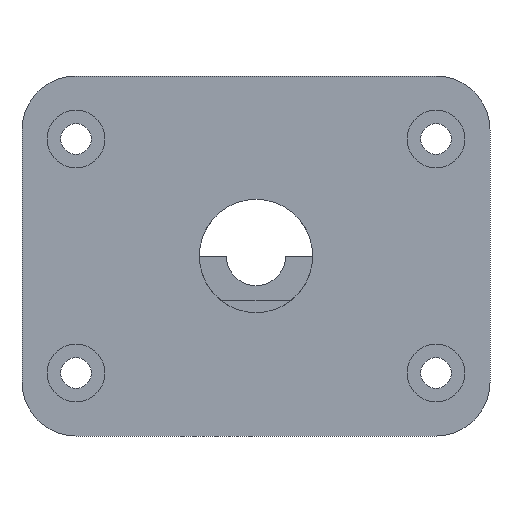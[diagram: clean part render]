
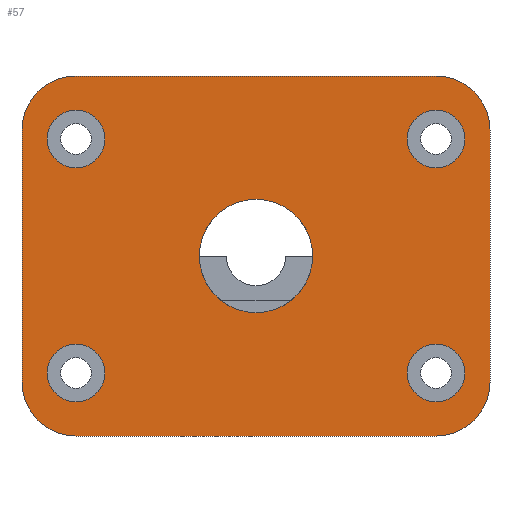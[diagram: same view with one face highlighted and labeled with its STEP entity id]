
A CAD part, front view. The second image highlights one B-rep face of the part: STEP entity #57.
In plain terms, the highlighted planar face has unit normal (0, -1, 0).
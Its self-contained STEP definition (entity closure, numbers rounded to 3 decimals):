
#21 = EDGE_CURVE('',#22,#24,#26,.T.);
#22 = VERTEX_POINT('',#23);
#23 = CARTESIAN_POINT('',(-26.,-27.5,6.));
#24 = VERTEX_POINT('',#25);
#25 = CARTESIAN_POINT('',(-26.,-27.5,34.));
#26 = LINE('',#27,#28);
#27 = CARTESIAN_POINT('',(-26.,-27.5,0.));
#28 = VECTOR('',#29,1.);
#29 = DIRECTION('',(0.,0.,1.));
#57 = ADVANCED_FACE('',(#58,#119,#130,#141,#152,#163),#174,.F.);
#58 = FACE_BOUND('',#59,.F.);
#59 = EDGE_LOOP('',(#60,#70,#77,#78,#87,#95,#104,#112));
#60 = ORIENTED_EDGE('',*,*,#61,.F.);
#61 = EDGE_CURVE('',#62,#64,#66,.T.);
#62 = VERTEX_POINT('',#63);
#63 = CARTESIAN_POINT('',(-20.,-27.5,0.));
#64 = VERTEX_POINT('',#65);
#65 = CARTESIAN_POINT('',(20.,-27.5,0.));
#66 = LINE('',#67,#68);
#67 = CARTESIAN_POINT('',(-26.,-27.5,0.));
#68 = VECTOR('',#69,1.);
#69 = DIRECTION('',(1.,0.,0.));
#70 = ORIENTED_EDGE('',*,*,#71,.F.);
#71 = EDGE_CURVE('',#22,#62,#72,.T.);
#72 = CIRCLE('',#73,6.);
#73 = AXIS2_PLACEMENT_3D('',#74,#75,#76);
#74 = CARTESIAN_POINT('',(-20.,-27.5,6.));
#75 = DIRECTION('',(0.,-1.,0.));
#76 = DIRECTION('',(0.,0.,1.));
#77 = ORIENTED_EDGE('',*,*,#21,.T.);
#78 = ORIENTED_EDGE('',*,*,#79,.T.);
#79 = EDGE_CURVE('',#24,#80,#82,.T.);
#80 = VERTEX_POINT('',#81);
#81 = CARTESIAN_POINT('',(-20.,-27.5,40.));
#82 = CIRCLE('',#83,6.);
#83 = AXIS2_PLACEMENT_3D('',#84,#85,#86);
#84 = CARTESIAN_POINT('',(-20.,-27.5,34.));
#85 = DIRECTION('',(0.,1.,0.));
#86 = DIRECTION('',(0.,0.,1.));
#87 = ORIENTED_EDGE('',*,*,#88,.T.);
#88 = EDGE_CURVE('',#80,#89,#91,.T.);
#89 = VERTEX_POINT('',#90);
#90 = CARTESIAN_POINT('',(20.,-27.5,40.));
#91 = LINE('',#92,#93);
#92 = CARTESIAN_POINT('',(-26.,-27.5,40.));
#93 = VECTOR('',#94,1.);
#94 = DIRECTION('',(1.,0.,0.));
#95 = ORIENTED_EDGE('',*,*,#96,.F.);
#96 = EDGE_CURVE('',#97,#89,#99,.T.);
#97 = VERTEX_POINT('',#98);
#98 = CARTESIAN_POINT('',(26.,-27.5,34.));
#99 = CIRCLE('',#100,6.);
#100 = AXIS2_PLACEMENT_3D('',#101,#102,#103);
#101 = CARTESIAN_POINT('',(20.,-27.5,34.));
#102 = DIRECTION('',(0.,-1.,0.));
#103 = DIRECTION('',(0.,0.,1.));
#104 = ORIENTED_EDGE('',*,*,#105,.F.);
#105 = EDGE_CURVE('',#106,#97,#108,.T.);
#106 = VERTEX_POINT('',#107);
#107 = CARTESIAN_POINT('',(26.,-27.5,6.));
#108 = LINE('',#109,#110);
#109 = CARTESIAN_POINT('',(26.,-27.5,0.));
#110 = VECTOR('',#111,1.);
#111 = DIRECTION('',(0.,0.,1.));
#112 = ORIENTED_EDGE('',*,*,#113,.T.);
#113 = EDGE_CURVE('',#106,#64,#114,.T.);
#114 = CIRCLE('',#115,6.);
#115 = AXIS2_PLACEMENT_3D('',#116,#117,#118);
#116 = CARTESIAN_POINT('',(20.,-27.5,6.));
#117 = DIRECTION('',(0.,1.,0.));
#118 = DIRECTION('',(0.,0.,1.));
#119 = FACE_BOUND('',#120,.F.);
#120 = EDGE_LOOP('',(#121));
#121 = ORIENTED_EDGE('',*,*,#122,.F.);
#122 = EDGE_CURVE('',#123,#123,#125,.T.);
#123 = VERTEX_POINT('',#124);
#124 = CARTESIAN_POINT('',(-20.,-27.5,10.2));
#125 = CIRCLE('',#126,3.2);
#126 = AXIS2_PLACEMENT_3D('',#127,#128,#129);
#127 = CARTESIAN_POINT('',(-20.,-27.5,7.));
#128 = DIRECTION('',(0.,1.,0.));
#129 = DIRECTION('',(0.,0.,1.));
#130 = FACE_BOUND('',#131,.F.);
#131 = EDGE_LOOP('',(#132));
#132 = ORIENTED_EDGE('',*,*,#133,.F.);
#133 = EDGE_CURVE('',#134,#134,#136,.T.);
#134 = VERTEX_POINT('',#135);
#135 = CARTESIAN_POINT('',(0.,-27.5,26.3));
#136 = CIRCLE('',#137,6.3);
#137 = AXIS2_PLACEMENT_3D('',#138,#139,#140);
#138 = CARTESIAN_POINT('',(0.,-27.5,20.));
#139 = DIRECTION('',(0.,1.,0.));
#140 = DIRECTION('',(0.,0.,1.));
#141 = FACE_BOUND('',#142,.F.);
#142 = EDGE_LOOP('',(#143));
#143 = ORIENTED_EDGE('',*,*,#144,.F.);
#144 = EDGE_CURVE('',#145,#145,#147,.T.);
#145 = VERTEX_POINT('',#146);
#146 = CARTESIAN_POINT('',(-20.,-27.5,36.2));
#147 = CIRCLE('',#148,3.2);
#148 = AXIS2_PLACEMENT_3D('',#149,#150,#151);
#149 = CARTESIAN_POINT('',(-20.,-27.5,33.));
#150 = DIRECTION('',(0.,1.,0.));
#151 = DIRECTION('',(0.,0.,1.));
#152 = FACE_BOUND('',#153,.F.);
#153 = EDGE_LOOP('',(#154));
#154 = ORIENTED_EDGE('',*,*,#155,.F.);
#155 = EDGE_CURVE('',#156,#156,#158,.T.);
#156 = VERTEX_POINT('',#157);
#157 = CARTESIAN_POINT('',(20.,-27.5,10.2));
#158 = CIRCLE('',#159,3.2);
#159 = AXIS2_PLACEMENT_3D('',#160,#161,#162);
#160 = CARTESIAN_POINT('',(20.,-27.5,7.));
#161 = DIRECTION('',(0.,1.,0.));
#162 = DIRECTION('',(0.,0.,1.));
#163 = FACE_BOUND('',#164,.F.);
#164 = EDGE_LOOP('',(#165));
#165 = ORIENTED_EDGE('',*,*,#166,.F.);
#166 = EDGE_CURVE('',#167,#167,#169,.T.);
#167 = VERTEX_POINT('',#168);
#168 = CARTESIAN_POINT('',(20.,-27.5,36.2));
#169 = CIRCLE('',#170,3.2);
#170 = AXIS2_PLACEMENT_3D('',#171,#172,#173);
#171 = CARTESIAN_POINT('',(20.,-27.5,33.));
#172 = DIRECTION('',(0.,1.,0.));
#173 = DIRECTION('',(0.,0.,1.));
#174 = PLANE('',#175);
#175 = AXIS2_PLACEMENT_3D('',#176,#177,#178);
#176 = CARTESIAN_POINT('',(-26.,-27.5,0.));
#177 = DIRECTION('',(0.,1.,0.));
#178 = DIRECTION('',(0.,0.,1.));
